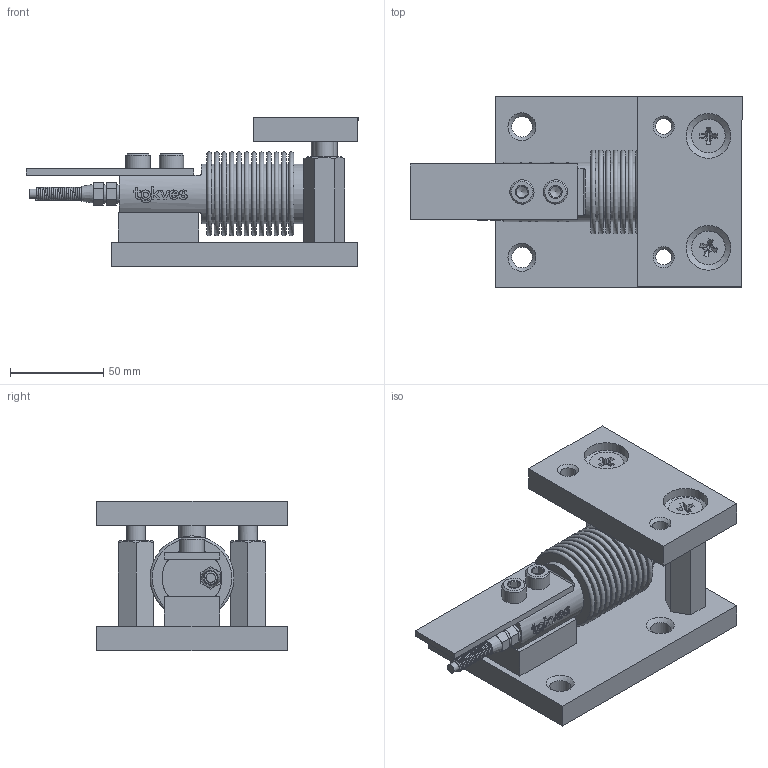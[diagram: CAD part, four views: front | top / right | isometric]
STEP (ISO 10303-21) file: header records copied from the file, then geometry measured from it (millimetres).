
FILE_DESCRIPTION(('STEP AP242'), '1');
FILE_NAME('BBAD-1', '', ('UNSPECIFIED'), ('UNSPECIFIED'), 'C3D Converter', 'C3D Toolkit', '');
FILE_SCHEMA(('AP242_MANAGED_MODEL_BASED_3D_ENGINEERING_MIM_LF { 1 0 10303 442 1 1 4 }'));
Length unit declared in the file: millimetre
Bounding box: 178 x 102 x 80 mm (x, y, z)
Volume: 403193.4 mm3; surface area: 101739.9 mm2
Topology: 2 solids, 4 shells, 624 faces, 1555 edges, 1011 vertices
Faces by surface type: plane 305, cylinder 230, bspline 32, cone 31, torus 14, extrusion 12
Full cylindrical faces by diameter (mm): 2.844 x3, 5 x1, 5.035 x3, 6 x2, 7 x1, 8 x3, 8.2 x3, 8.376 x2, 9 x2, 9.992 x2, 10 x2, 11 x4, 12 x1, 13 x2, 14 x3, 18 x3, 24 x2, 32 x13
Entity records: 38106 total; most frequent: CARTESIAN_POINT 24249, ORIENTED_EDGE 2830, DIRECTION 2606, EDGE_CURVE 1415, VERTEX_POINT 1007, AXIS2_PLACEMENT_3D 932, EDGE_LOOP 846, VECTOR 742
